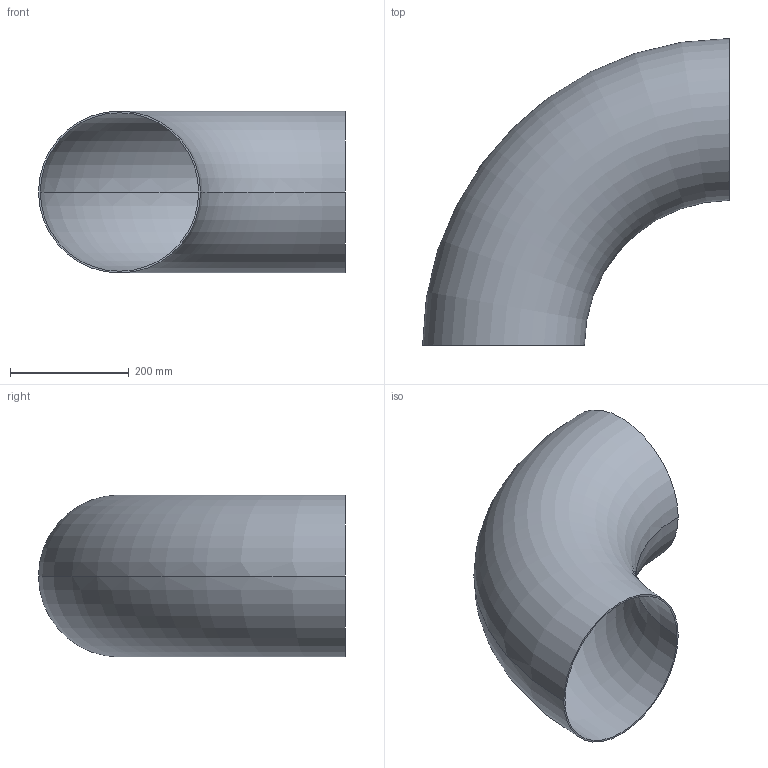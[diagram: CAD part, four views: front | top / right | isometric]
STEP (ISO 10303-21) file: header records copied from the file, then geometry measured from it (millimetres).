
FILE_DESCRIPTION (( 'STEP AP203' ), '1' );
FILE_NAME ('OT200-250-273x2_9_OSTP.step', '2020-12-16T03:03:37', ( '' ), ( '' ), 'SwSTEP 2.0', 'SolidWorks 2014', '' );
FILE_SCHEMA (( 'CONFIG_CONTROL_DESIGN' ));
Length unit declared in the file: millimetre
Products named in the file (1): OT200-250-273x2_9_OSTP
Bounding box: 517.5 x 517.5 x 273 mm (x, y, z)
Volume: 1472710.2 mm3; surface area: 1020583.8 mm2
Topology: 1 solids, 1 shells, 6 faces, 12 edges, 8 vertices
Faces by surface type: torus 4, plane 2
Entity records: 249 total; most frequent: DIRECTION 38, CARTESIAN_POINT 27, ORIENTED_EDGE 24, AXIS2_PLACEMENT_3D 19, CIRCLE 12, EDGE_CURVE 12, EDGE_LOOP 8, PERSON_AND_ORGANIZATION 8
